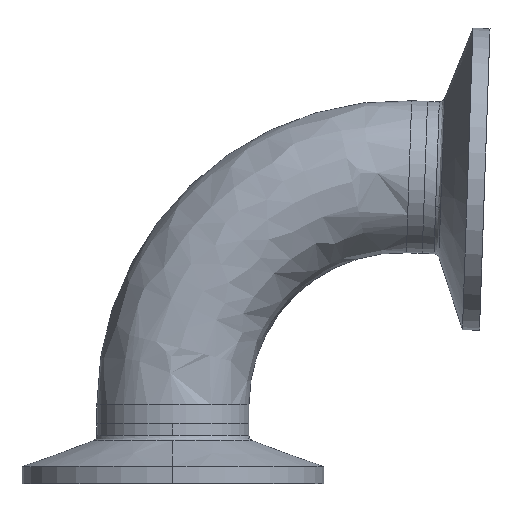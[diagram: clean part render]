
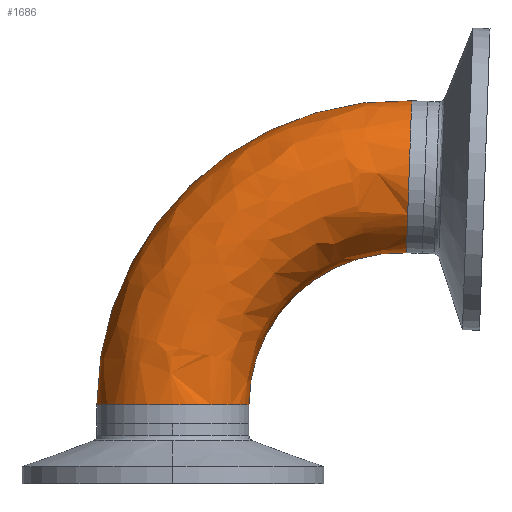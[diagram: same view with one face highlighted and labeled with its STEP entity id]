
A CAD part, top view. The second image highlights one B-rep face of the part: STEP entity #1686.
In plain terms, the highlighted free-form (B-spline) face has degree [3, 3] with [4, 4] control points.
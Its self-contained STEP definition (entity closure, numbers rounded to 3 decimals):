
#4 = CIRCLE ( 'NONE', #1357, 12.7 ) ;
#72 = DIRECTION ( 'NONE',  ( -1., 0., 0. ) ) ;
#77 = CARTESIAN_POINT ( 'NONE',  ( 39.873, 53.934, 0. ) ) ;
#214 = DIRECTION ( 'NONE',  ( -1., 0., 0. ) ) ;
#250 = VERTEX_POINT ( 'NONE', #556 ) ;
#315 = CARTESIAN_POINT ( 'NONE',  ( -12.7, 33.753, 25.4 ) ) ;
#552 = DIRECTION ( 'NONE',  ( -0.999, 0.035, 0. ) ) ;
#556 = CARTESIAN_POINT ( 'NONE',  ( 39.873, 53.934, 0. ) ) ;
#557 = CARTESIAN_POINT ( 'NONE',  ( 39.873, 53.934, 25.4 ) ) ;
#705 = FACE_OUTER_BOUND ( 'NONE', #1742, .T. ) ;
#767 = CARTESIAN_POINT ( 'NONE',  ( -12.7, 3.165, 0. ) ) ;
#791 = CARTESIAN_POINT ( 'NONE',  ( 12.7, 18.459, 25.4 ) ) ;
#926 = CARTESIAN_POINT ( 'NONE',  ( 0., 3.165, 0. ) ) ;
#949 = ORIENTED_EDGE ( 'NONE', *, *, #2055, .T. ) ;
#954 = CARTESIAN_POINT ( 'NONE',  ( -12.7, 3.165, 0. ) ) ;
#1041 = CARTESIAN_POINT ( 'NONE',  ( 38.986, 28.549, 25.4 ) ) ;
#1053 = CIRCLE ( 'NONE', #1432, 50.8 ) ;
#1060 = CIRCLE ( 'NONE', #1308, 12.7 ) ;
#1084 = EDGE_CURVE ( 'NONE', #1854, #250, #1053, .T. ) ;
#1155 = DIRECTION ( 'NONE',  ( -1., 0., 0. ) ) ;
#1281 = CARTESIAN_POINT ( 'NONE',  ( 12.7, 18.459, 0. ) ) ;
#1308 = AXIS2_PLACEMENT_3D ( 'NONE', #2000, #552, #2237 ) ;
#1357 = AXIS2_PLACEMENT_3D ( 'NONE', #926, #2604, #1155 ) ;
#1432 = AXIS2_PLACEMENT_3D ( 'NONE', #2565, #2739, #72 ) ;
#1507 = ORIENTED_EDGE ( 'NONE', *, *, #1084, .F. ) ;
#1516 = CARTESIAN_POINT ( 'NONE',  ( 9.303, 55.001, 0. ) ) ;
#1525 = CARTESIAN_POINT ( 'NONE',  ( 38.986, 28.549, 0. ) ) ;
#1538 = VERTEX_POINT ( 'NONE', #2609 ) ;
#1672 = DIRECTION ( 'NONE',  ( 0., 0., -1. ) ) ;
#1686 = ADVANCED_FACE ( 'NONE', ( #705 ), #2580, .T. ) ;
#1742 = EDGE_LOOP ( 'NONE', ( #2703, #2074, #949, #1507 ) ) ;
#1768 = CARTESIAN_POINT ( 'NONE',  ( -12.7, 3.165, 25.4 ) ) ;
#1854 = VERTEX_POINT ( 'NONE', #954 ) ;
#2000 = CARTESIAN_POINT ( 'NONE',  ( 39.43, 41.241, 0. ) ) ;
#2008 = CARTESIAN_POINT ( 'NONE',  ( 9.303, 55.001, 25.4 ) ) ;
#2055 = EDGE_CURVE ( 'NONE', #1538, #250, #1060, .T. ) ;
#2074 = ORIENTED_EDGE ( 'NONE', *, *, #2750, .T. ) ;
#2237 = DIRECTION ( 'NONE',  ( 0.035, 0.999, 0. ) ) ;
#2240 = CARTESIAN_POINT ( 'NONE',  ( 12.7, 3.165, 25.4 ) ) ;
#2362 = VERTEX_POINT ( 'NONE', #2455 ) ;
#2401 = CIRCLE ( 'NONE', #2900, 25.4 ) ;
#2455 = CARTESIAN_POINT ( 'NONE',  ( 12.7, 3.165, 0. ) ) ;
#2463 = CARTESIAN_POINT ( 'NONE',  ( -12.7, 33.753, 0. ) ) ;
#2474 = CARTESIAN_POINT ( 'NONE',  ( 23.702, 29.083, 25.4 ) ) ;
#2565 = CARTESIAN_POINT ( 'NONE',  ( 38.1, 3.165, 0. ) ) ;
#2580 =( BOUNDED_SURFACE ( )  B_SPLINE_SURFACE ( 3, 3, ( 
 ( #767, #2463, #1516, #77 ),
 ( #1768, #315, #2008, #557 ),
 ( #2240, #791, #2474, #1041 ),
 ( #2714, #1281, #2946, #1525 ) ),
 .UNSPECIFIED., .F., .F., .F. ) 
 B_SPLINE_SURFACE_WITH_KNOTS ( ( 4, 4 ),
 ( 4, 4 ),
 ( 0., 1. ),
 ( 0., 1. ),
 .UNSPECIFIED. ) 
 GEOMETRIC_REPRESENTATION_ITEM ( )  RATIONAL_B_SPLINE_SURFACE ( (
 ( 1., 0.796, 0.796, 1.),
 ( 0.333, 0.265, 0.265, 0.333),
 ( 0.333, 0.265, 0.265, 0.333),
 ( 1., 0.796, 0.796, 1.) ) ) 
 REPRESENTATION_ITEM ( '' )  SURFACE ( )  );
#2604 = DIRECTION ( 'NONE',  ( 0., 1., 0. ) ) ;
#2609 = CARTESIAN_POINT ( 'NONE',  ( 38.986, 28.549, 0. ) ) ;
#2682 = EDGE_CURVE ( 'NONE', #1854, #2362, #4, .T. ) ;
#2703 = ORIENTED_EDGE ( 'NONE', *, *, #2682, .T. ) ;
#2714 = CARTESIAN_POINT ( 'NONE',  ( 12.7, 3.165, 0. ) ) ;
#2739 = DIRECTION ( 'NONE',  ( 0., 0., -1. ) ) ;
#2750 = EDGE_CURVE ( 'NONE', #2362, #1538, #2401, .T. ) ;
#2900 = AXIS2_PLACEMENT_3D ( 'NONE', #3067, #1672, #214 ) ;
#2946 = CARTESIAN_POINT ( 'NONE',  ( 23.702, 29.083, 0. ) ) ;
#3067 = CARTESIAN_POINT ( 'NONE',  ( 38.1, 3.165, 0. ) ) ;
